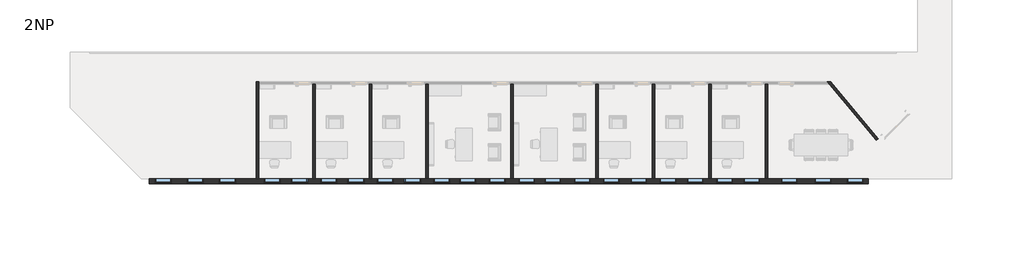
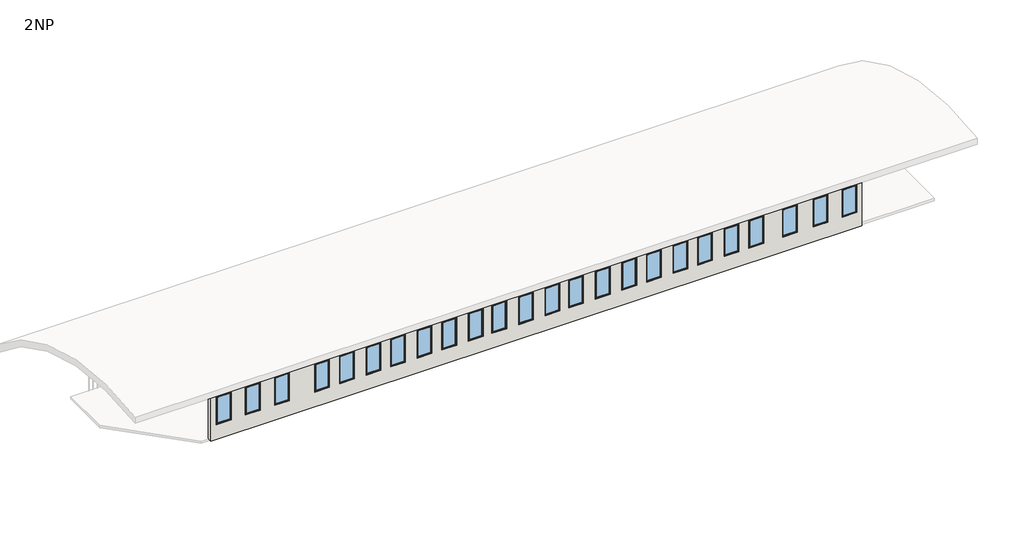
# One storey, part 1 of 2: 24 windows, 11 walls.
"""IFC4 building model written with IfcOpenShell, lengths in millimetres."""

from ifc_helpers import new_model, si_unit, frame, origin, place, context, project, spatial, polyline, outline, extrude, faceted_brep, transform, mapped, element, save
from components import window_0915_x_1830mm_7ee91fd3

model = new_model("IFC4")

# Units and contexts
model_context = context("Model", 3, world=origin())
ifc_project = project(units=[si_unit("LENGTHUNIT", "METRE", prefix="MILLI")], contexts=[model_context])

# Site, building, storey
site = spatial("IfcSite", under=ifc_project)
building = spatial("IfcBuilding", under=site)
storey = spatial("IfcBuildingStorey", under=building, Name="2NP", Elevation=4000.0)

# Walls
placement = place(None, origin())
element("IfcWall", 1, ObjectType="Exterior - EIFS on Mtl. Stud", at=placement, inside=storey, context=model_context, shape_type="Brep", body=[
    faceted_brep([(33755.6755273, -4624.9448694, 4000.0), (28058.4255273, -4624.9448694, 4000.0), (27919.9255273, -4624.9448694, 4000.0), (24858.4255273, -4624.9448694, 4000.0), (24719.9255273, -4624.9448694, 4000.0), (21658.4255273, -4624.9448694, 4000.0), (21519.9255273, -4624.9448694, 4000.0), (18458.4255273, -4624.9448694, 4000.0), (18319.9255273, -4624.9448694, 4000.0), (13658.4255273, -4624.9448694, 4000.0), (13519.9255273, -4624.9448694, 4000.0), (8858.4255273, -4624.9448694, 4000.0), (8719.9255273, -4624.9448694, 4000.0), (5658.4255273, -4624.9448694, 4000.0), (5519.9255273, -4624.9448694, 4000.0), (2458.4255273, -4624.9448694, 4000.0), (2319.9255273, -4624.9448694, 4000.0), (-741.5744727, -4624.9448694, 4000.0), (-880.0744727, -4624.9448694, 4000.0), (-6943.1051418, -4624.9448694, 4000.0), (-6943.1051418, -4624.9448694, 8000.0), (-880.0744727, -4624.9448694, 8000.0), (-741.5744727, -4624.9448694, 8000.0), (33755.6755273, -4624.9448694, 8000.0), (33455.6755273, -4624.9448694, 4970.0), (33455.6755273, -4624.9448694, 6800.0), (32540.6755273, -4624.9448694, 6800.0), (32540.6755273, -4624.9448694, 4970.0), (31640.6755273, -4624.9448694, 4970.0), (31640.6755273, -4624.9448694, 6800.0), (30725.6755273, -4624.9448694, 6800.0), (30725.6755273, -4624.9448694, 4970.0), (29725.6755273, -4624.9448694, 4970.0), (29725.6755273, -4624.9448694, 6800.0), (28810.6755273, -4624.9448694, 6800.0), (28810.6755273, -4624.9448694, 4970.0), (-5680.0744727, -4624.9448694, 4970.0), (-5680.0744727, -4624.9448694, 6800.0), (-6595.0744727, -4624.9448694, 6800.0), (-6595.0744727, -4624.9448694, 4970.0), (-3865.0744727, -4624.9448694, 4970.0), (-3865.0744727, -4624.9448694, 6800.0), (-4780.0744727, -4624.9448694, 6800.0), (-4780.0744727, -4624.9448694, 4970.0), (-2050.0744727, -4624.9448694, 4970.0), (-2050.0744727, -4624.9448694, 6800.0), (-2965.0744727, -4624.9448694, 6800.0), (-2965.0744727, -4624.9448694, 4970.0), (473.4255273, -4624.9448694, 4970.0), (473.4255273, -4624.9448694, 6800.0), (-441.5744727, -4624.9448694, 6800.0), (-441.5744727, -4624.9448694, 4970.0), (2019.9255273, -4624.9448694, 4970.0), (2019.9255273, -4624.9448694, 6800.0), (1104.9255273, -4624.9448694, 6800.0), (1104.9255273, -4624.9448694, 4970.0), (16346.6755273, -4624.9448694, 4970.0), (16346.6755273, -4624.9448694, 6800.0), (15431.6755273, -4624.9448694, 6800.0), (15431.6755273, -4624.9448694, 4970.0), (14873.4255273, -4624.9448694, 4970.0), (14873.4255273, -4624.9448694, 6800.0), (13958.4255273, -4624.9448694, 6800.0), (13958.4255273, -4624.9448694, 4970.0), (18019.9255273, -4624.9448694, 4970.0), (18019.9255273, -4624.9448694, 6800.0), (17104.9255273, -4624.9448694, 6800.0), (17104.9255273, -4624.9448694, 4970.0), (3673.4255273, -4624.9448694, 4970.0), (3673.4255273, -4624.9448694, 6800.0), (2758.4255273, -4624.9448694, 6800.0), (2758.4255273, -4624.9448694, 4970.0), (5219.9255273, -4624.9448694, 4970.0), (5219.9255273, -4624.9448694, 6800.0), (4304.9255273, -4624.9448694, 6800.0), (4304.9255273, -4624.9448694, 4970.0), (6873.4255273, -4624.9448694, 4970.0), (6873.4255273, -4624.9448694, 6800.0), (5958.4255273, -4624.9448694, 6800.0), (5958.4255273, -4624.9448694, 4970.0), (8419.9255273, -4624.9448694, 4970.0), (8419.9255273, -4624.9448694, 6800.0), (7504.9255273, -4624.9448694, 6800.0), (7504.9255273, -4624.9448694, 4970.0), (19673.4255273, -4624.9448694, 4970.0), (19673.4255273, -4624.9448694, 6800.0), (18758.4255273, -4624.9448694, 6800.0), (18758.4255273, -4624.9448694, 4970.0), (21219.9255273, -4624.9448694, 4970.0), (21219.9255273, -4624.9448694, 6800.0), (20304.9255273, -4624.9448694, 6800.0), (20304.9255273, -4624.9448694, 4970.0), (22873.4255273, -4624.9448694, 4970.0), (22873.4255273, -4624.9448694, 6800.0), (21958.4255273, -4624.9448694, 6800.0), (21958.4255273, -4624.9448694, 4970.0), (24419.9255273, -4624.9448694, 4970.0), (24419.9255273, -4624.9448694, 6800.0), (23504.9255273, -4624.9448694, 6800.0), (23504.9255273, -4624.9448694, 4970.0), (26073.4255273, -4624.9448694, 4970.0), (26073.4255273, -4624.9448694, 6800.0), (25158.4255273, -4624.9448694, 6800.0), (25158.4255273, -4624.9448694, 4970.0), (27619.9255273, -4624.9448694, 4970.0), (27619.9255273, -4624.9448694, 6800.0), (26704.9255273, -4624.9448694, 6800.0), (26704.9255273, -4624.9448694, 4970.0), (10073.4255273, -4624.9448694, 4970.0), (10073.4255273, -4624.9448694, 6800.0), (9158.4255273, -4624.9448694, 6800.0), (9158.4255273, -4624.9448694, 4970.0), (11546.6755273, -4624.9448694, 4970.0), (11546.6755273, -4624.9448694, 6800.0), (10631.6755273, -4624.9448694, 6800.0), (10631.6755273, -4624.9448694, 4970.0), (13219.9255273, -4624.9448694, 4970.0), (13219.9255273, -4624.9448694, 6800.0), (12304.9255273, -4624.9448694, 6800.0), (12304.9255273, -4624.9448694, 4970.0), (-6943.1051418, -4891.9448694, 4000.0), (33755.6755273, -4891.9448694, 4000.0), (33755.6755273, -4891.9448694, 8000.0), (-6943.1051418, -4891.9448694, 8000.0), (33455.6755273, -4891.9448694, 6800.0), (33455.6755273, -4891.9448694, 4970.0), (32540.6755273, -4891.9448694, 4970.0), (32540.6755273, -4891.9448694, 6800.0), (31640.6755273, -4891.9448694, 6800.0), (31640.6755273, -4891.9448694, 4970.0), (30725.6755273, -4891.9448694, 4970.0), (30725.6755273, -4891.9448694, 6800.0), (29725.6755273, -4891.9448694, 6800.0), (29725.6755273, -4891.9448694, 4970.0), (28810.6755273, -4891.9448694, 4970.0), (28810.6755273, -4891.9448694, 6800.0), (-5680.0744727, -4891.9448694, 6800.0), (-5680.0744727, -4891.9448694, 4970.0), (-6595.0744727, -4891.9448694, 4970.0), (-6595.0744727, -4891.9448694, 6800.0), (-3865.0744727, -4891.9448694, 4970.0), (-4780.0744727, -4891.9448694, 4970.0), (-4780.0744727, -4891.9448694, 6800.0), (-3865.0744727, -4891.9448694, 6800.0), (-2050.0744727, -4891.9448694, 4970.0), (-2965.0744727, -4891.9448694, 4970.0), (-2965.0744727, -4891.9448694, 6800.0), (-2050.0744727, -4891.9448694, 6800.0), (473.4255273, -4891.9448694, 4970.0), (-441.5744727, -4891.9448694, 4970.0), (-441.5744727, -4891.9448694, 6800.0), (473.4255273, -4891.9448694, 6800.0), (2019.9255273, -4891.9448694, 4970.0), (1104.9255273, -4891.9448694, 4970.0), (1104.9255273, -4891.9448694, 6800.0), (2019.9255273, -4891.9448694, 6800.0), (16346.6755273, -4891.9448694, 4970.0), (15431.6755273, -4891.9448694, 4970.0), (15431.6755273, -4891.9448694, 6800.0), (16346.6755273, -4891.9448694, 6800.0), (14873.4255273, -4891.9448694, 4970.0), (13958.4255273, -4891.9448694, 4970.0), (13958.4255273, -4891.9448694, 6800.0), (14873.4255273, -4891.9448694, 6800.0), (18019.9255273, -4891.9448694, 4970.0), (17104.9255273, -4891.9448694, 4970.0), (17104.9255273, -4891.9448694, 6800.0), (18019.9255273, -4891.9448694, 6800.0), (3673.4255273, -4891.9448694, 4970.0), (2758.4255273, -4891.9448694, 4970.0), (2758.4255273, -4891.9448694, 6800.0), (3673.4255273, -4891.9448694, 6800.0), (5219.9255273, -4891.9448694, 4970.0), (4304.9255273, -4891.9448694, 4970.0), (4304.9255273, -4891.9448694, 6800.0), (5219.9255273, -4891.9448694, 6800.0), (6873.4255273, -4891.9448694, 4970.0), (5958.4255273, -4891.9448694, 4970.0), (5958.4255273, -4891.9448694, 6800.0), (6873.4255273, -4891.9448694, 6800.0), (8419.9255273, -4891.9448694, 4970.0), (7504.9255273, -4891.9448694, 4970.0), (7504.9255273, -4891.9448694, 6800.0), (8419.9255273, -4891.9448694, 6800.0), (19673.4255273, -4891.9448694, 4970.0), (18758.4255273, -4891.9448694, 4970.0), (18758.4255273, -4891.9448694, 6800.0), (19673.4255273, -4891.9448694, 6800.0), (21219.9255273, -4891.9448694, 4970.0), (20304.9255273, -4891.9448694, 4970.0), (20304.9255273, -4891.9448694, 6800.0), (21219.9255273, -4891.9448694, 6800.0), (22873.4255273, -4891.9448694, 4970.0), (21958.4255273, -4891.9448694, 4970.0), (21958.4255273, -4891.9448694, 6800.0), (22873.4255273, -4891.9448694, 6800.0), (24419.9255273, -4891.9448694, 4970.0), (23504.9255273, -4891.9448694, 4970.0), (23504.9255273, -4891.9448694, 6800.0), (24419.9255273, -4891.9448694, 6800.0), (26073.4255273, -4891.9448694, 4970.0), (25158.4255273, -4891.9448694, 4970.0), (25158.4255273, -4891.9448694, 6800.0), (26073.4255273, -4891.9448694, 6800.0), (27619.9255273, -4891.9448694, 4970.0), (26704.9255273, -4891.9448694, 4970.0), (26704.9255273, -4891.9448694, 6800.0), (27619.9255273, -4891.9448694, 6800.0), (10073.4255273, -4891.9448694, 4970.0), (9158.4255273, -4891.9448694, 4970.0), (9158.4255273, -4891.9448694, 6800.0), (10073.4255273, -4891.9448694, 6800.0), (11546.6755273, -4891.9448694, 4970.0), (10631.6755273, -4891.9448694, 4970.0), (10631.6755273, -4891.9448694, 6800.0), (11546.6755273, -4891.9448694, 6800.0), (13219.9255273, -4891.9448694, 4970.0), (12304.9255273, -4891.9448694, 4970.0), (12304.9255273, -4891.9448694, 6800.0), (13219.9255273, -4891.9448694, 6800.0)], [[[0, 1, 2, 3, 4, 5, 6, 7, 8, 9, 10, 11, 12, 13, 14, 15, 16, 17, 18, 19, 20, 21, 22, 23], [24, 25, 26, 27], [28, 29, 30, 31], [32, 33, 34, 35], [36, 37, 38, 39], [40, 41, 42, 43], [44, 45, 46, 47], [48, 49, 50, 51], [52, 53, 54, 55], [56, 57, 58, 59], [60, 61, 62, 63], [64, 65, 66, 67], [68, 69, 70, 71], [72, 73, 74, 75], [76, 77, 78, 79], [80, 81, 82, 83], [84, 85, 86, 87], [88, 89, 90, 91], [92, 93, 94, 95], [96, 97, 98, 99], [100, 101, 102, 103], [104, 105, 106, 107], [108, 109, 110, 111], [112, 113, 114, 115], [116, 117, 118, 119]], [[120, 121, 122, 123], [124, 125, 126, 127], [128, 129, 130, 131], [132, 133, 134, 135], [136, 137, 138, 139], [140, 141, 142, 143], [144, 145, 146, 147], [148, 149, 150, 151], [152, 153, 154, 155], [156, 157, 158, 159], [160, 161, 162, 163], [164, 165, 166, 167], [168, 169, 170, 171], [172, 173, 174, 175], [176, 177, 178, 179], [180, 181, 182, 183], [184, 185, 186, 187], [188, 189, 190, 191], [192, 193, 194, 195], [196, 197, 198, 199], [200, 201, 202, 203], [204, 205, 206, 207], [208, 209, 210, 211], [212, 213, 214, 215], [216, 217, 218, 219]], [[19, 18, 17, 16, 15, 14, 13, 12, 11, 10, 9, 8, 7, 6, 5, 4, 3, 2, 1, 0, 121, 120]], [[20, 19, 120, 123]], [[23, 22, 21, 20, 123, 122]], [[23, 122, 121, 0]], [[25, 24, 125, 124]], [[26, 25, 124, 127]], [[27, 26, 127, 126]], [[24, 27, 126, 125]], [[29, 28, 129, 128]], [[30, 29, 128, 131]], [[31, 30, 131, 130]], [[28, 31, 130, 129]], [[33, 32, 133, 132]], [[34, 33, 132, 135]], [[35, 34, 135, 134]], [[32, 35, 134, 133]], [[36, 137, 136, 37]], [[37, 136, 139, 38]], [[138, 39, 38, 139]], [[137, 36, 39, 138]], [[41, 40, 140, 143]], [[42, 41, 143, 142]], [[43, 42, 142, 141]], [[40, 43, 141, 140]], [[45, 44, 144, 147]], [[46, 45, 147, 146]], [[47, 46, 146, 145]], [[44, 47, 145, 144]], [[49, 48, 148, 151]], [[50, 49, 151, 150]], [[51, 50, 150, 149]], [[48, 51, 149, 148]], [[53, 52, 152, 155]], [[54, 53, 155, 154]], [[55, 54, 154, 153]], [[52, 55, 153, 152]], [[57, 56, 156, 159]], [[58, 57, 159, 158]], [[59, 58, 158, 157]], [[56, 59, 157, 156]], [[61, 60, 160, 163]], [[62, 61, 163, 162]], [[63, 62, 162, 161]], [[60, 63, 161, 160]], [[65, 64, 164, 167]], [[66, 65, 167, 166]], [[67, 66, 166, 165]], [[64, 67, 165, 164]], [[69, 68, 168, 171]], [[70, 69, 171, 170]], [[71, 70, 170, 169]], [[68, 71, 169, 168]], [[73, 72, 172, 175]], [[74, 73, 175, 174]], [[75, 74, 174, 173]], [[72, 75, 173, 172]], [[77, 76, 176, 179]], [[78, 77, 179, 178]], [[79, 78, 178, 177]], [[76, 79, 177, 176]], [[81, 80, 180, 183]], [[82, 81, 183, 182]], [[83, 82, 182, 181]], [[80, 83, 181, 180]], [[85, 84, 184, 187]], [[86, 85, 187, 186]], [[87, 86, 186, 185]], [[84, 87, 185, 184]], [[89, 88, 188, 191]], [[90, 89, 191, 190]], [[91, 90, 190, 189]], [[88, 91, 189, 188]], [[93, 92, 192, 195]], [[94, 93, 195, 194]], [[95, 94, 194, 193]], [[92, 95, 193, 192]], [[97, 96, 196, 199]], [[98, 97, 199, 198]], [[99, 98, 198, 197]], [[96, 99, 197, 196]], [[101, 100, 200, 203]], [[102, 101, 203, 202]], [[103, 102, 202, 201]], [[100, 103, 201, 200]], [[105, 104, 204, 207]], [[106, 105, 207, 206]], [[107, 106, 206, 205]], [[104, 107, 205, 204]], [[109, 108, 208, 211]], [[110, 109, 211, 210]], [[111, 110, 210, 209]], [[108, 111, 209, 208]], [[113, 112, 212, 215]], [[114, 113, 215, 214]], [[115, 114, 214, 213]], [[112, 115, 213, 212]], [[117, 116, 216, 219]], [[118, 117, 219, 218]], [[119, 118, 218, 217]], [[116, 119, 217, 216]]]),
])
element("IfcWall", 2, ObjectType="Interior - 138mm Partition (1-hr)", at=placement, inside=storey, context=model_context, shape_type="Brep", body=[
    faceted_brep([(-741.5744727, -4624.9448694, 4000.0), (-741.5744727, 722.3051306, 4000.0), (-741.5744727, 860.8051306, 4000.0), (-741.5744727, 860.8051306, 8000.0), (-741.5744727, 722.3051306, 8000.0), (-741.5744727, -4624.9448694, 8000.0), (-880.0744727, -4624.9448694, 4000.0), (-880.0744727, -4624.9448694, 8000.0), (-880.0744727, 860.8051306, 8000.0), (-880.0744727, 860.8051306, 4000.0)], [[[0, 1, 2, 3, 4, 5]], [[6, 7, 8, 9]], [[2, 1, 0, 6, 9]], [[5, 4, 3, 8, 7]], [[3, 2, 9, 8]], [[0, 5, 7, 6]]]),
])
element("IfcWall", 3, ObjectType="Interior - 138mm Partition (1-hr)", at=placement, inside=storey, context=model_context, shape_type="SweptSolid", body=[
    extrude(outline(polyline([(28058.4255273, 722.3051306), (28058.4255273, -4624.9448694), (27919.9255273, -4624.9448694), (27919.9255273, 722.3051306), (28058.4255273, 722.3051306)])), frame((0.0, 0.0, 4000.0), z_axis=(0.0, 0.0, 1.0), x_axis=(1.0, 0.0, 0.0)), (0.0, 0.0, 1.0), 3700.0),
])
element("IfcWall", 4, ObjectType="Interior - 138mm Partition (1-hr)", at=placement, inside=storey, context=model_context, shape_type="Brep", body=[
    faceted_brep([(34302.1897841, -2343.3293589, 4000.0), (31613.6017157, 860.8051306, 4000.0), (31613.6017157, 860.8051306, 8000.0), (34302.1897841, -2343.3293589, 8000.0), (34205.6755273, -2443.7758967, 4000.0), (34205.6755273, -2443.7758967, 8000.0), (31549.018105, 722.3051306, 8000.0), (31432.8028061, 860.8051306, 8000.0), (31432.8028061, 860.8051306, 4000.0), (31549.018105, 722.3051306, 4000.0), (34205.6755273, -2439.8436157, 4000.0), (34205.6755273, -2439.8436157, 8000.0)], [[[0, 1, 2, 3]], [[4, 5, 6, 7, 8, 9]], [[1, 0, 10, 4, 9, 8]], [[3, 2, 7, 6, 5, 11]], [[2, 1, 8, 7]], [[0, 3, 11, 10]], [[11, 5, 4, 10]]]),
])
element("IfcWall", 5, ObjectType="Interior - 138mm Partition (1-hr)", at=placement, inside=storey, context=model_context, shape_type="SweptSolid", body=[
    extrude(outline(polyline([(2458.4255273, 722.3051306), (2458.4255273, -4624.9448694), (2319.9255273, -4624.9448694), (2319.9255273, 722.3051306), (2458.4255273, 722.3051306)])), frame((0.0, 0.0, 4000.0), z_axis=(0.0, 0.0, 1.0), x_axis=(1.0, 0.0, 0.0)), (0.0, 0.0, 1.0), 3700.0),
])
element("IfcWall", 6, ObjectType="Interior - 138mm Partition (1-hr)", at=placement, inside=storey, context=model_context, shape_type="SweptSolid", body=[
    extrude(outline(polyline([(5658.4255273, 722.3051306), (5658.4255273, -4624.9448694), (5519.9255273, -4624.9448694), (5519.9255273, 722.3051306), (5658.4255273, 722.3051306)])), frame((0.0, 0.0, 4000.0), z_axis=(0.0, 0.0, 1.0), x_axis=(1.0, 0.0, 0.0)), (0.0, 0.0, 1.0), 3700.0),
])
element("IfcWall", 7, ObjectType="Interior - 138mm Partition (1-hr)", at=placement, inside=storey, context=model_context, shape_type="SweptSolid", body=[
    extrude(outline(polyline([(8858.4255273, 722.3051306), (8858.4255273, -4624.9448694), (8719.9255273, -4624.9448694), (8719.9255273, 722.3051306), (8858.4255273, 722.3051306)])), frame((0.0, 0.0, 4000.0), z_axis=(0.0, 0.0, 1.0), x_axis=(1.0, 0.0, 0.0)), (0.0, 0.0, 1.0), 3700.0),
])
element("IfcWall", 8, ObjectType="Interior - 138mm Partition (1-hr)", at=placement, inside=storey, context=model_context, shape_type="SweptSolid", body=[
    extrude(outline(polyline([(13658.4255273, 722.3051306), (13658.4255273, -4624.9448694), (13519.9255273, -4624.9448694), (13519.9255273, 722.3051306), (13658.4255273, 722.3051306)])), frame((0.0, 0.0, 4000.0), z_axis=(0.0, 0.0, 1.0), x_axis=(1.0, 0.0, 0.0)), (0.0, 0.0, 1.0), 3700.0),
])
element("IfcWall", 9, ObjectType="Interior - 138mm Partition (1-hr)", at=placement, inside=storey, context=model_context, shape_type="SweptSolid", body=[
    extrude(outline(polyline([(21658.4255273, 722.3051306), (21658.4255273, -4624.9448694), (21519.9255273, -4624.9448694), (21519.9255273, 722.3051306), (21658.4255273, 722.3051306)])), frame((0.0, 0.0, 4000.0), z_axis=(0.0, 0.0, 1.0), x_axis=(1.0, 0.0, 0.0)), (0.0, 0.0, 1.0), 3700.0),
])
element("IfcWall", 10, ObjectType="Interior - 138mm Partition (1-hr)", at=placement, inside=storey, context=model_context, shape_type="SweptSolid", body=[
    extrude(outline(polyline([(24858.4255273, 722.3051306), (24858.4255273, -4624.9448694), (24719.9255273, -4624.9448694), (24719.9255273, 722.3051306), (24858.4255273, 722.3051306)])), frame((0.0, 0.0, 4000.0), z_axis=(0.0, 0.0, 1.0), x_axis=(1.0, 0.0, 0.0)), (0.0, 0.0, 1.0), 3700.0),
])
element("IfcWall", 11, ObjectType="Interior - 138mm Partition (1-hr)", at=placement, inside=storey, context=model_context, shape_type="SweptSolid", body=[
    extrude(outline(polyline([(18458.4255273, 722.3051306), (18458.4255273, -4624.9448694), (18319.9255273, -4624.9448694), (18319.9255273, 722.3051306), (18458.4255273, 722.3051306)])), frame((0.0, 0.0, 4000.0), z_axis=(0.0, 0.0, 1.0), x_axis=(1.0, 0.0, 0.0)), (0.0, 0.0, 1.0), 3700.0),
])

# Windows
window_0915_x_1830mm_shape = window_0915_x_1830mm_7ee91fd3(model_context)
element("IfcWindow", 12, ObjectType="Pevne : 0915 x 1830mm", at=placement, inside=storey, context=model_context, shape_type="MappedRepresentation", body=[
    mapped(window_0915_x_1830mm_shape, transform((32998.1755273, -4745.4448694, 4665.0), x_axis=(-1.0, 0.0, 0.0), y_axis=(0.0, -1.0, 0.0), z_axis=(0.0, 0.0, 1.0))),
])
element("IfcWindow", 13, ObjectType="Pevne : 0915 x 1830mm", at=placement, inside=storey, context=model_context, shape_type="MappedRepresentation", body=[
    mapped(window_0915_x_1830mm_shape, transform((31183.1755273, -4745.4448694, 4665.0), x_axis=(-1.0, 0.0, 0.0), y_axis=(0.0, -1.0, 0.0), z_axis=(0.0, 0.0, 1.0))),
])
element("IfcWindow", 14, ObjectType="Pevne : 0915 x 1830mm", at=placement, inside=storey, context=model_context, shape_type="MappedRepresentation", body=[
    mapped(window_0915_x_1830mm_shape, transform((29268.1755273, -4745.4448694, 4665.0), x_axis=(-1.0, 0.0, 0.0), y_axis=(0.0, -1.0, 0.0), z_axis=(0.0, 0.0, 1.0))),
])
element("IfcWindow", 15, ObjectType="Pevne : 0915 x 1830mm", at=placement, inside=storey, context=model_context, shape_type="MappedRepresentation", body=[
    mapped(window_0915_x_1830mm_shape, transform((-6137.5744727, -4745.4448694, 4665.0), x_axis=(-1.0, 0.0, 0.0), y_axis=(0.0, -1.0, 0.0), z_axis=(0.0, 0.0, 1.0))),
])
element("IfcWindow", 16, ObjectType="Pevne : 0915 x 1830mm", at=placement, inside=storey, context=model_context, shape_type="MappedRepresentation", body=[
    mapped(window_0915_x_1830mm_shape, transform((-4322.5744727, -4745.4448694, 4665.0), x_axis=(-1.0, 0.0, 0.0), y_axis=(0.0, -1.0, 0.0), z_axis=(0.0, 0.0, 1.0))),
])
element("IfcWindow", 17, ObjectType="Pevne : 0915 x 1830mm", at=placement, inside=storey, context=model_context, shape_type="MappedRepresentation", body=[
    mapped(window_0915_x_1830mm_shape, transform((-2507.5744727, -4745.4448694, 4665.0), x_axis=(-1.0, 0.0, 0.0), y_axis=(0.0, -1.0, 0.0), z_axis=(0.0, 0.0, 1.0))),
])
element("IfcWindow", 18, ObjectType="Pevne : 0915 x 1830mm", at=placement, inside=storey, context=model_context, shape_type="MappedRepresentation", body=[
    mapped(window_0915_x_1830mm_shape, transform((15.9255273, -4745.4448694, 4665.0), x_axis=(-1.0, 0.0, 0.0), y_axis=(0.0, -1.0, 0.0), z_axis=(0.0, 0.0, 1.0))),
])
element("IfcWindow", 19, ObjectType="Pevne : 0915 x 1830mm", at=placement, inside=storey, context=model_context, shape_type="MappedRepresentation", body=[
    mapped(window_0915_x_1830mm_shape, transform((1562.4255273, -4745.4448694, 4665.0), x_axis=(-1.0, 0.0, 0.0), y_axis=(0.0, -1.0, 0.0), z_axis=(0.0, 0.0, 1.0))),
])
element("IfcWindow", 20, ObjectType="Pevne : 0915 x 1830mm", at=placement, inside=storey, context=model_context, shape_type="MappedRepresentation", body=[
    mapped(window_0915_x_1830mm_shape, transform((3215.9255273, -4745.4448694, 4665.0), x_axis=(-1.0, 0.0, 0.0), y_axis=(0.0, -1.0, 0.0), z_axis=(0.0, 0.0, 1.0))),
])
element("IfcWindow", 21, ObjectType="Pevne : 0915 x 1830mm", at=placement, inside=storey, context=model_context, shape_type="MappedRepresentation", body=[
    mapped(window_0915_x_1830mm_shape, transform((4762.4255273, -4745.4448694, 4665.0), x_axis=(-1.0, 0.0, 0.0), y_axis=(0.0, -1.0, 0.0), z_axis=(0.0, 0.0, 1.0))),
])
element("IfcWindow", 22, ObjectType="Pevne : 0915 x 1830mm", at=placement, inside=storey, context=model_context, shape_type="MappedRepresentation", body=[
    mapped(window_0915_x_1830mm_shape, transform((6415.9255273, -4745.4448694, 4665.0), x_axis=(-1.0, 0.0, 0.0), y_axis=(0.0, -1.0, 0.0), z_axis=(0.0, 0.0, 1.0))),
])
element("IfcWindow", 23, ObjectType="Pevne : 0915 x 1830mm", at=placement, inside=storey, context=model_context, shape_type="MappedRepresentation", body=[
    mapped(window_0915_x_1830mm_shape, transform((7962.4255273, -4745.4448694, 4665.0), x_axis=(-1.0, 0.0, 0.0), y_axis=(0.0, -1.0, 0.0), z_axis=(0.0, 0.0, 1.0))),
])
element("IfcWindow", 24, ObjectType="Pevne : 0915 x 1830mm", at=placement, inside=storey, context=model_context, shape_type="MappedRepresentation", body=[
    mapped(window_0915_x_1830mm_shape, transform((9615.9255273, -4745.4448694, 4665.0), x_axis=(-1.0, 0.0, 0.0), y_axis=(0.0, -1.0, 0.0), z_axis=(0.0, 0.0, 1.0))),
])
element("IfcWindow", 25, ObjectType="Pevne : 0915 x 1830mm", at=placement, inside=storey, context=model_context, shape_type="MappedRepresentation", body=[
    mapped(window_0915_x_1830mm_shape, transform((11089.1755273, -4745.4448694, 4665.0), x_axis=(-1.0, 0.0, 0.0), y_axis=(0.0, -1.0, 0.0), z_axis=(0.0, 0.0, 1.0))),
])
element("IfcWindow", 26, ObjectType="Pevne : 0915 x 1830mm", at=placement, inside=storey, context=model_context, shape_type="MappedRepresentation", body=[
    mapped(window_0915_x_1830mm_shape, transform((19215.9255273, -4745.4448694, 4665.0), x_axis=(-1.0, 0.0, 0.0), y_axis=(0.0, -1.0, 0.0), z_axis=(0.0, 0.0, 1.0))),
])
element("IfcWindow", 27, ObjectType="Pevne : 0915 x 1830mm", at=placement, inside=storey, context=model_context, shape_type="MappedRepresentation", body=[
    mapped(window_0915_x_1830mm_shape, transform((20762.4255273, -4745.4448694, 4665.0), x_axis=(-1.0, 0.0, 0.0), y_axis=(0.0, -1.0, 0.0), z_axis=(0.0, 0.0, 1.0))),
])
element("IfcWindow", 28, ObjectType="Pevne : 0915 x 1830mm", at=placement, inside=storey, context=model_context, shape_type="MappedRepresentation", body=[
    mapped(window_0915_x_1830mm_shape, transform((22415.9255273, -4745.4448694, 4665.0), x_axis=(-1.0, 0.0, 0.0), y_axis=(0.0, -1.0, 0.0), z_axis=(0.0, 0.0, 1.0))),
])
element("IfcWindow", 29, ObjectType="Pevne : 0915 x 1830mm", at=placement, inside=storey, context=model_context, shape_type="MappedRepresentation", body=[
    mapped(window_0915_x_1830mm_shape, transform((23962.4255273, -4745.4448694, 4665.0), x_axis=(-1.0, 0.0, 0.0), y_axis=(0.0, -1.0, 0.0), z_axis=(0.0, 0.0, 1.0))),
])
element("IfcWindow", 30, ObjectType="Pevne : 0915 x 1830mm", at=placement, inside=storey, context=model_context, shape_type="MappedRepresentation", body=[
    mapped(window_0915_x_1830mm_shape, transform((25615.9255273, -4745.4448694, 4665.0), x_axis=(-1.0, 0.0, 0.0), y_axis=(0.0, -1.0, 0.0), z_axis=(0.0, 0.0, 1.0))),
])
element("IfcWindow", 31, ObjectType="Pevne : 0915 x 1830mm", at=placement, inside=storey, context=model_context, shape_type="MappedRepresentation", body=[
    mapped(window_0915_x_1830mm_shape, transform((27162.4255273, -4745.4448694, 4665.0), x_axis=(-1.0, 0.0, 0.0), y_axis=(0.0, -1.0, 0.0), z_axis=(0.0, 0.0, 1.0))),
])
element("IfcWindow", 32, ObjectType="Pevne : 0915 x 1830mm", at=placement, inside=storey, context=model_context, shape_type="MappedRepresentation", body=[
    mapped(window_0915_x_1830mm_shape, transform((12762.4255273, -4745.4448694, 4665.0), x_axis=(-1.0, 0.0, 0.0), y_axis=(0.0, -1.0, 0.0), z_axis=(0.0, 0.0, 1.0))),
])
element("IfcWindow", 33, ObjectType="Pevne : 0915 x 1830mm", at=placement, inside=storey, context=model_context, shape_type="MappedRepresentation", body=[
    mapped(window_0915_x_1830mm_shape, transform((14415.9255273, -4745.4448694, 4665.0), x_axis=(-1.0, 0.0, 0.0), y_axis=(0.0, -1.0, 0.0), z_axis=(0.0, 0.0, 1.0))),
])
element("IfcWindow", 34, ObjectType="Pevne : 0915 x 1830mm", at=placement, inside=storey, context=model_context, shape_type="MappedRepresentation", body=[
    mapped(window_0915_x_1830mm_shape, transform((15889.1755273, -4745.4448694, 4665.0), x_axis=(-1.0, 0.0, 0.0), y_axis=(0.0, -1.0, 0.0), z_axis=(0.0, 0.0, 1.0))),
])
element("IfcWindow", 35, ObjectType="Pevne : 0915 x 1830mm", at=placement, inside=storey, context=model_context, shape_type="MappedRepresentation", body=[
    mapped(window_0915_x_1830mm_shape, transform((17562.4255273, -4745.4448694, 4665.0), x_axis=(-1.0, 0.0, 0.0), y_axis=(0.0, -1.0, 0.0), z_axis=(0.0, 0.0, 1.0))),
])

save(model, "model.ifc")
